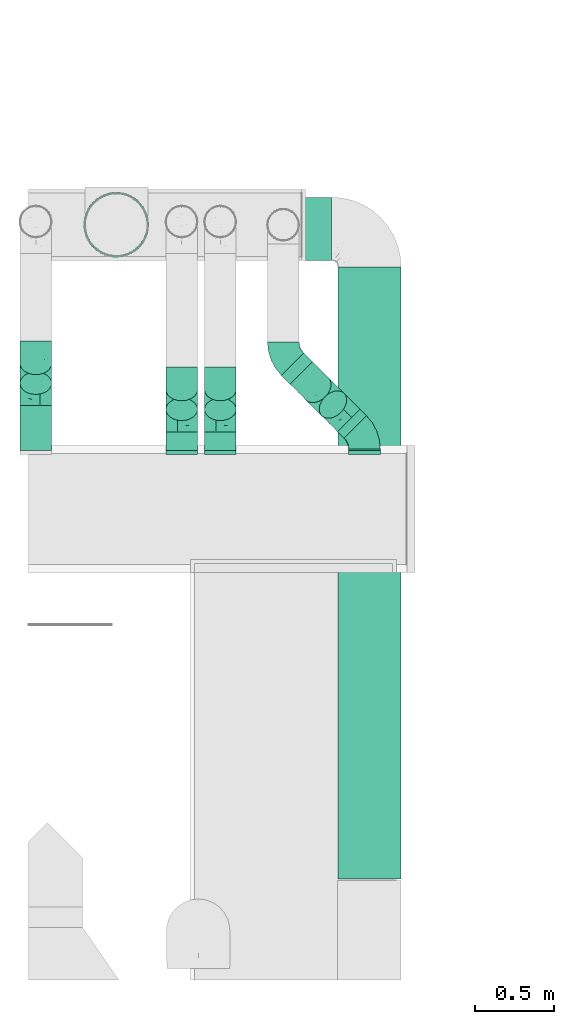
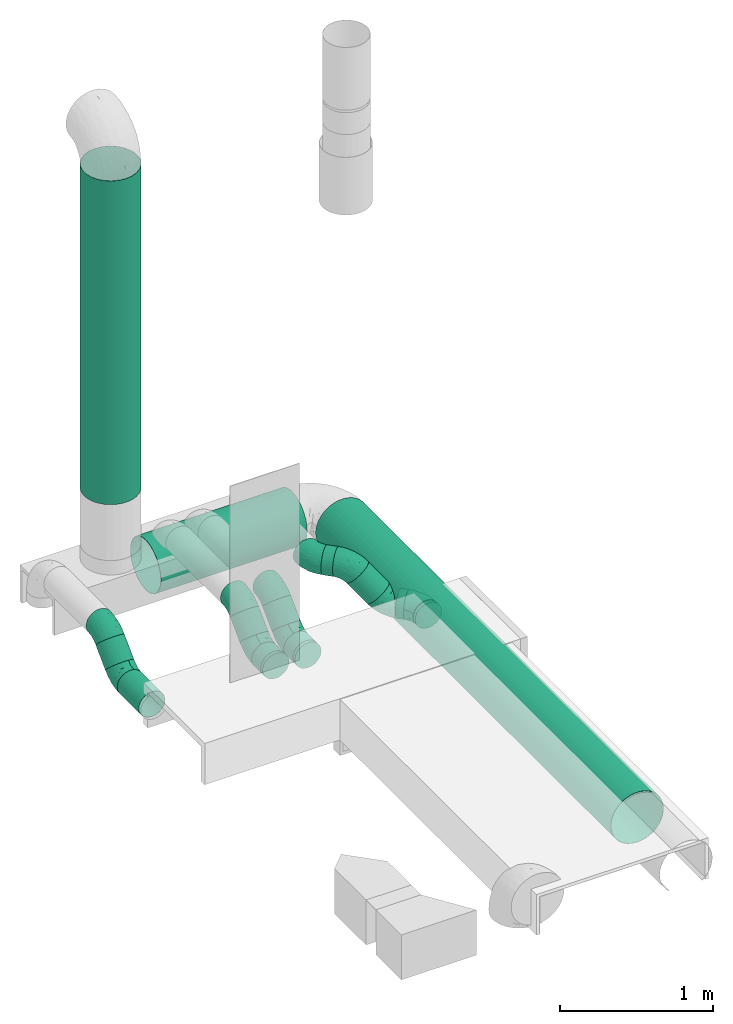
# One storey, part 2 of 9: 13 flow fittings, 13 flow segments.
"""IFC2X3 building model written with IfcOpenShell, lengths in millimetres."""

from ifc_helpers import new_model, entity, si_unit, converted_unit, derived_unit, direction, frame, origin_with_axes, origin_2d_with_axis, place, context, subcontext, project, spatial, hollow_circle, extrude, open_shell, surface_model, source, transform, mapped, type_object, element, save


model = new_model("IFC2X3")

# Units and contexts
model_context = context("Model", 3, precision=0.01, world=frame((0.0, 4.29681676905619e-09, 0.0)), true_north=direction((4.01073788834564e-13, 1.0)))
plan_context = context("Plan", 3, precision=0.01, world=frame((0.0, 4.29681676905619e-09, 0.0)), true_north=direction((4.01073788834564e-13, 1.0)))
body_context = subcontext(model_context, "Body", "Model", "MODEL_VIEW")
ifc_project = project(units=[converted_unit("PLANEANGLEUNIT", "DEGREE", entity("IfcPositiveLengthMeasure", 0.0174532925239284), si_unit("PLANEANGLEUNIT", "RADIAN"), dimensions=[0, 0, 0, 0, 0, 0, 0]), si_unit("AREAUNIT", "SQUARE_METRE"), si_unit("LENGTHUNIT", "METRE", prefix="MILLI"), si_unit("MASSUNIT", "GRAM", prefix="KILO"), si_unit("POWERUNIT", "WATT"), si_unit("PRESSUREUNIT", "PASCAL"), si_unit("FORCEUNIT", "NEWTON", prefix="KILO"), si_unit("ELECTRICVOLTAGEUNIT", "VOLT"), si_unit("ELECTRICCURRENTUNIT", "AMPERE"), si_unit("THERMODYNAMICTEMPERATUREUNIT", "DEGREE_CELSIUS"), si_unit("TIMEUNIT", "SECOND"), si_unit("VOLUMEUNIT", "CUBIC_METRE"), derived_unit("LINEARVELOCITYUNIT", [(si_unit("LENGTHUNIT", "METRE"), 1), (si_unit("TIMEUNIT", "SECOND"), -1)]), derived_unit("VOLUMETRICFLOWRATEUNIT", [(si_unit("VOLUMEUNIT", "CUBIC_METRE"), 1), (si_unit("TIMEUNIT", "SECOND"), -1)]), derived_unit("THERMALTRANSMITTANCEUNIT", [(si_unit("POWERUNIT", "WATT"), 1), (si_unit("THERMODYNAMICTEMPERATUREUNIT", "KELVIN"), -1), (si_unit("AREAUNIT", "SQUARE_METRE"), -1)]), derived_unit("SOUNDPRESSUREUNIT", [(si_unit("PRESSUREUNIT", "PASCAL"), 1)])], contexts=[model_context, plan_context])

# Site, building, storey
site_placement = place(None, frame((0.0, -4.29681676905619e-09, 0.0), z_axis=(0.0, 0.0, 1.0), x_axis=(1.0, 0.0, 0.0)))
site = spatial("IfcSite", under=ifc_project, at=site_placement, Name="ENGM", CompositionType="ELEMENT")
building_placement = place(site_placement, frame((0.0, 4.29681676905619e-09, 0.0), z_axis=(0.0, 0.0, 1.0), x_axis=(1.0, 0.0, 0.0)))
building = spatial("IfcBuilding", under=site, at=building_placement, Name="TH", CompositionType="ELEMENT")
storey_placement = place(building_placement, frame((0.0, 0.0, 205200.0), z_axis=(0.0, 0.0, 1.0), x_axis=(1.0, 0.0, 0.0)))
storey = spatial("IfcBuildingStorey", under=building, at=storey_placement, Name="Nivå D + 1,2 m", CompositionType="ELEMENT", Elevation=205200.0)

# Flow fittings
duct_fitting_type_1 = type_object("IfcDuctFittingType", Name="magicirc_elbow_full_radius_001", PredefinedType="BEND")
shared_shape_1 = source(origin_with_axes(), body_context, "Body", "SurfaceModel", [
    surface_model("IfcShellBasedSurfaceModel", [(-82.84271, 25.8819, -96.59259), (-82.84271, 0.0, -100.0), (-82.84271, 96.59259, -25.8819), (-82.84271, 50.0, -86.60254), (-82.84271, 86.60254, -50.0), (-82.84271, 70.71068, -70.71068), (-82.84271, -70.71068, -70.71068), (-82.84271, -50.0, -86.60254), (-82.84271, -25.8819, -96.59259), (-82.84271, -86.60254, -50.0), (-82.84271, -96.59259, -25.8819), (-82.84271, -50.0, 86.60254), (-82.84271, -100.0, 0.0), (-82.84271, -96.59259, 25.8819), (-82.84271, 96.59259, 25.8819), (-82.84271, 100.0, 0.0), (-82.84271, 25.8819, 96.59259), (-82.84271, 86.60254, 50.0), (-82.84271, 70.71068, 70.71068), (-82.84271, 50.0, 86.60254), (-82.84271, -86.60254, 50.0), (-82.84271, -70.71068, 70.71068), (-82.84271, -25.8819, 96.59259), (-82.84271, 0.0, 100.0), (58.57864, 58.57864, -100.0), (40.27737, 76.87991, -96.59259), (23.22331, 93.93398, -86.60254), (-2.6586, 119.81589, -50.0), (108.57865, 8.57864, -70.71068), (8.57864, 108.57865, -70.71068), (126.87991, -9.72263, 25.8819), (126.87991, -9.72263, -25.8819), (76.87991, 40.27737, -96.59259), (93.93398, 23.22331, -86.60254), (119.81589, -2.6586, -50.0), (129.28932, -12.13203, 0.0), (-9.72263, 126.87991, -25.8819), (-12.13203, 129.28932, 0.0), (-9.72263, 126.87991, 25.8819), (-2.6586, 119.81589, 50.0), (23.22331, 93.93398, 86.60254), (40.27737, 76.87991, 96.59259), (8.57864, 108.57865, 70.71068), (93.93398, 23.22331, 86.60254), (108.57865, 8.57864, 70.71068), (119.81589, -2.6586, 50.0), (76.87991, 40.27737, 96.59259), (58.57864, 58.57864, 100.0), (-57.29099, -79.42021, 59.21052), (-24.31562, -94.23558, 0.0), (-43.9725, -96.06555, 16.63742), (-58.00304, -97.5535, 0.0), (-22.62975, -75.75, 56.8801), (-39.16383, -90.45398, 34.87961), (-29.30132, -36.36549, 90.58787), (-39.70312, -60.08226, 77.13943), (19.49388, -47.06239, 73.85634), (10.84026, 65.00947, 93.41562), (1.46492, -3.53662, 97.91653), (-43.12593, -12.7573, 98.6406), (-38.26827, 14.32746, 99.58947), (-57.69239, 93.63486, 42.10905), (-35.4631, 85.6155, 64.76816), (-29.65962, 102.0198, 46.52765), (-12.25866, 100.52723, 62.54187), (-62.4153, 79.75166, 62.54187), (-46.49193, 62.66416, 81.50801), (-6.40302, -88.25261, 18.80636), (-18.73869, 45.23919, 94.57549), (-53.63386, 38.30341, 93.41562), (91.65364, -36.26761, 34.87961), (-43.25494, 104.42667, 26.03225), (-56.96081, 103.40741, 0.0), (39.51541, 21.47386, 98.6406), (-32.84271, 113.39746, 0.0), (19.7138, -75.88259, 33.1995), (26.23125, -61.80978, 54.83928), (46.43345, -4.99513, 90.58787), (98.51157, -37.21493, 16.69099), (71.15919, -55.23259, 19.42915), (-10.03396, 78.1744, 81.40791), (96.66942, -15.64772, 59.21052), (16.9287, 37.1908, 99.58947), (56.23324, -57.15976, 38.34032), (31.96232, -77.16386, 0.0), (70.55892, -14.41023, 77.13943), (83.82836, -49.44088, 0.0), (106.55884, -30.78646, 0.0), (69.56499, -37.56169, 56.8801), (9.88078, -23.85433, 90.61382), (-11.68618, 28.21294, 99.00678), (57.89534, -63.30237, 0.0), (3.82335, -85.69972, 0.0), (82.71793, -27.62774, -57.98988), (55.71052, 2.24508, -90.99936), (32.01348, 15.60322, -98.50234), (-46.22996, 82.51933, -63.86908), (-42.69185, 39.65342, -93.78543), (-8.72296, 21.05909, -99.80036), (-48.44601, 13.11192, -99.50146), (-43.25495, 104.42667, -26.03225), (-58.37356, 61.05095, -80.80392), (-27.86885, 67.28134, -82.61409), (2.14849, 58.2269, -93.78543), (-36.62535, 98.23487, -47.06584), (-26.19472, -88.59033, -33.84745), (109.99508, -27.9664, 0.0), (-27.06178, -58.48887, -76.46967), (7.51001, -27.94606, -89.20181), (24.24205, -38.81302, -78.67846), (-39.42854, -78.07759, -58.02175), (-40.9808, -37.80578, -90.99936), (-33.67009, -11.60381, -98.50234), (16.54926, -66.14947, -54.09942), (27.48789, -74.57861, -28.28654), (39.90412, -47.07461, -65.1263), (54.0194, -52.73285, -48.57265), (-17.13985, 96.75999, -63.04113), (-7.90978, 86.16249, -77.07496), (24.98497, 43.52803, -99.50146), (81.16529, -44.12035, -33.84745), (57.56574, -24.35182, -76.27755), (-0.71706, 1.73113, -98.92776), (54.51768, -60.62886, -32.38632)], [open_shell([[[0, 1, 2]], [[3, 0, 2]], [[2, 4, 5]], [[3, 2, 5]], [[6, 2, 1]], [[7, 6, 8]], [[6, 1, 8]], [[9, 10, 6]], [[11, 6, 10]], [[10, 12, 13]], [[2, 6, 11]], [[14, 15, 16]], [[17, 14, 18]], [[14, 16, 19]], [[18, 14, 19]], [[11, 16, 15]], [[20, 21, 13]], [[11, 13, 21]], [[10, 13, 11]], [[11, 22, 16]], [[22, 23, 16]], [[15, 2, 11]], [[24, 25, 26]], [[24, 26, 27]], [[24, 27, 28]], [[27, 26, 29]], [[30, 31, 27]], [[32, 28, 33]], [[32, 24, 28]], [[28, 31, 34]], [[27, 31, 28]], [[31, 30, 35]], [[30, 27, 36]], [[37, 38, 39]], [[30, 37, 39]], [[40, 41, 39]], [[40, 39, 42]], [[43, 39, 41]], [[30, 44, 45]], [[44, 30, 43]], [[41, 46, 43]], [[43, 30, 39]], [[47, 46, 41]], [[37, 30, 36]], [[21, 20, 48]], [[49, 50, 51]], [[52, 48, 53]], [[22, 11, 54]], [[11, 55, 54]], [[54, 55, 56]], [[41, 40, 57]], [[58, 59, 54]], [[59, 23, 22]], [[16, 23, 60]], [[17, 61, 14]], [[62, 63, 61]], [[42, 39, 64]], [[62, 65, 66]], [[53, 50, 67]], [[65, 17, 18]], [[68, 69, 60]], [[53, 20, 13]], [[45, 70, 30]], [[14, 71, 72]], [[46, 47, 73]], [[72, 15, 14]], [[74, 71, 38]], [[11, 21, 55]], [[16, 69, 19]], [[52, 75, 76]], [[53, 75, 52]], [[18, 19, 66]], [[77, 46, 73]], [[78, 70, 79]], [[68, 57, 80]], [[77, 43, 46]], [[45, 44, 81]], [[41, 57, 82]], [[75, 83, 76]], [[45, 81, 70]], [[67, 84, 75]], [[77, 85, 43]], [[86, 78, 79]], [[30, 78, 87]], [[83, 70, 88]], [[13, 51, 50]], [[85, 56, 88]], [[72, 71, 74]], [[44, 43, 85]], [[37, 74, 38]], [[54, 89, 58]], [[38, 71, 63]], [[73, 82, 58]], [[42, 80, 40]], [[90, 58, 82]], [[63, 62, 64]], [[60, 90, 68]], [[62, 66, 80]], [[41, 82, 47]], [[59, 60, 23]], [[69, 66, 19]], [[70, 83, 79]], [[48, 55, 21]], [[89, 56, 77]], [[56, 55, 52]], [[56, 85, 77]], [[81, 85, 88]], [[80, 42, 64]], [[68, 80, 66]], [[54, 59, 22]], [[60, 59, 58]], [[82, 73, 47]], [[77, 73, 58]], [[60, 69, 16]], [[66, 69, 68]], [[80, 57, 40]], [[82, 57, 68]], [[76, 88, 56]], [[13, 12, 51]], [[88, 76, 83]], [[52, 76, 56]], [[75, 79, 83]], [[79, 84, 91]], [[87, 35, 30]], [[30, 70, 78]], [[78, 86, 87]], [[84, 79, 75]], [[91, 86, 79]], [[67, 50, 49]], [[13, 50, 53]], [[67, 49, 92]], [[53, 67, 75]], [[38, 63, 39]], [[61, 63, 71]], [[14, 61, 71]], [[61, 17, 65]], [[66, 65, 18]], [[61, 65, 62]], [[63, 64, 39]], [[80, 64, 62]], [[53, 48, 20]], [[55, 48, 52]], [[85, 81, 44]], [[70, 81, 88]], [[56, 89, 54]], [[77, 58, 89]], [[58, 90, 60]], [[82, 68, 90]], [[84, 67, 92]], [[34, 93, 28]], [[32, 94, 95]], [[96, 5, 4]], [[3, 97, 0]], [[15, 72, 2]], [[98, 99, 97]], [[2, 72, 100]], [[24, 32, 95]], [[101, 96, 102]], [[26, 25, 103]], [[2, 100, 104]], [[99, 1, 0]], [[9, 105, 10]], [[32, 33, 94]], [[105, 51, 10]], [[102, 103, 97]], [[31, 35, 106]], [[4, 2, 104]], [[6, 7, 107]], [[107, 108, 109]], [[6, 110, 9]], [[8, 111, 7]], [[8, 1, 112]], [[105, 113, 114]], [[115, 93, 116]], [[29, 117, 27]], [[100, 72, 74]], [[113, 110, 107]], [[74, 37, 36]], [[111, 108, 107]], [[117, 104, 27]], [[104, 36, 27]], [[102, 96, 118]], [[117, 118, 96]], [[3, 5, 101]], [[112, 111, 8]], [[119, 25, 24]], [[101, 97, 3]], [[1, 99, 112]], [[102, 118, 103]], [[93, 34, 120]], [[119, 95, 98]], [[95, 94, 108]], [[110, 6, 107]], [[115, 109, 121]], [[113, 116, 114]], [[92, 105, 114]], [[121, 33, 28]], [[120, 31, 106]], [[110, 113, 105]], [[120, 106, 86]], [[119, 103, 25]], [[95, 122, 98]], [[31, 120, 34]], [[91, 114, 123]], [[122, 108, 112]], [[116, 93, 120]], [[100, 74, 36]], [[121, 28, 93]], [[98, 97, 103]], [[105, 9, 110]], [[33, 121, 94]], [[94, 121, 109]], [[108, 111, 112]], [[107, 7, 111]], [[97, 99, 0]], [[112, 99, 98]], [[95, 119, 24]], [[103, 119, 98]], [[117, 29, 118]], [[104, 117, 96]], [[4, 104, 96]], [[104, 100, 36]], [[29, 26, 118]], [[103, 118, 26]], [[84, 114, 91]], [[115, 116, 113]], [[96, 101, 5]], [[49, 105, 92]], [[109, 113, 107]], [[93, 115, 121]], [[109, 115, 113]], [[94, 109, 108]], [[120, 123, 116]], [[86, 91, 120]], [[97, 101, 102]], [[51, 105, 49]], [[51, 12, 10]], [[108, 122, 95]], [[112, 98, 122]], [[114, 84, 92]], [[91, 123, 120]], [[114, 116, 123]]])]),
])
for number, where, z_axis, x_axis, name in (
    (1, (895158.11568, 479740.09136, 4160.0), (1.0, 0.0, 0.0), (0.0, 1.0, 0.0), "magicirc_elbow_full_radius_001"),
    (2, (895158.11568, 479982.20154, 4402.11017999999), (-1.0, 0.0, 0.0), (0.0, 0.707106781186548, 0.707106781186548), "magicirc_elbow_full_radius_001"),
    (3, (896078.11568, 479817.20154, 4402.11017999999), (-1.0, 0.0, 0.0), (0.0, 0.707106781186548, 0.707106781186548), "magicirc_elbow_full_radius_001"),
    (4, (896321.62292, 479817.20154, 4402.11017999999), (-1.0, 0.0, 0.0), (0.0, 0.707106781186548, 0.707106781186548), "magicirc_elbow_full_radius_001"),
    (5, (897230.84596, 479465.09136, 4160.0), (0.0, 0.0, 1.0), (0.0, 1.0, 0.0), "magicirc_elbow_full_radius_001"),
    (6, (896078.11568, 479575.09136, 4160.0), (-1.0, 0.0, 0.0), (0.0, -0.707106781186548, -0.707106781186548), "magicirc_elbow_full_radius_001"),
    (7, (896321.62292, 479575.09136, 4160.0), (-1.0, 0.0, 0.0), (0.0, -0.707106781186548, -0.707106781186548), "magicirc_elbow_full_radius_001"),
    (8, (896718.71393, 479977.22339, 4416.87078), (0.0, 0.0, 1.0), (0.0, -1.0, 0.0), "magicirc_elbow_full_radius_001"),
    (9, (896891.6373, 479804.30002, 4416.87078), (0.707106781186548, 0.707106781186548, 0.0), (0.707106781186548, -0.707106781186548, 0.0), "magicirc_elbow_full_radius_001"),
    (10, (897073.27237, 479622.66495, 4160.0), (0.707106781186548, 0.707106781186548, 0.0), (-0.707106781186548, 0.707106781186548, 0.0), "magicirc_elbow_full_radius_001"),
):
    element("IfcFlowFitting", number, at=place(storey_placement, frame(where, z_axis=z_axis, x_axis=x_axis)), inside=storey, type_object=duct_fitting_type_1, Name=name, context=body_context, shape_type="MappedRepresentation", body=[
        mapped(shared_shape_1, transform((0.0, 0.0, 0.0), scale=1.0)),
    ])
duct_fitting_type_2 = type_object("IfcDuctFittingType", Name="magicirc_tapoutlet_001", PredefinedType="CONNECTOR")
shared_shape_2 = source(origin_with_axes(), body_context, "Body", "SurfaceModel", [
    surface_model("IfcShellBasedSurfaceModel", [(20.0, -96.59259, -25.8819), (20.0, -100.0, 0.0), (0.0, -100.0, 0.0), (0.0, -96.59259, -25.8819), (-6.096, 100.0, 0.0), (-6.096, 96.59259, -25.8819), (-6.096, 96.59259, 25.8819), (20.0, -86.60254, -50.0), (20.0, -96.59259, 25.8819), (-6.096, -25.8819, -96.59259), (-6.096, -100.0, 0.0), (-6.096, 0.0, -100.0), (-6.096, -50.0, -86.60254), (-6.096, -70.71068, -70.71068), (-6.096, -86.60254, -50.0), (-6.096, 70.71068, -70.71068), (-6.096, 50.0, -86.60254), (-6.096, 25.8819, -96.59259), (-6.096, 86.60254, -50.0), (-6.096, -96.59259, -25.8819), (-6.096, -96.59259, 25.8819), (-6.096, -86.60254, 50.0), (-6.096, -70.71068, 70.71068), (-6.096, -25.8819, 96.59259), (-6.096, -50.0, 86.60254), (-6.096, 25.8819, 96.59259), (-6.096, 70.71068, 70.71068), (-6.096, 86.60254, 50.0), (-6.096, 50.0, 86.60254), (-6.096, 0.0, 100.0), (0.0, -25.8819, 96.59259), (0.0, 0.0, 100.0), (0.0, -50.0, 86.60254), (0.0, -70.71068, 70.71068), (0.0, -96.59259, 25.8819), (0.0, -86.60254, 50.0), (0.0, -86.60254, -50.0), (0.0, -70.71068, -70.71068), (0.0, 0.0, -100.0), (0.0, -25.8819, -96.59259), (0.0, -50.0, -86.60254), (0.0, 25.8819, -96.59259), (0.0, 50.0, -86.60254), (0.0, 70.71068, -70.71068), (0.0, 96.59259, -25.8819), (0.0, 86.60254, -50.0), (0.0, 100.0, 0.0), (0.0, 96.59259, 25.8819), (0.0, 86.60254, 50.0), (0.0, 70.71068, 70.71068), (0.0, 25.8819, 96.59259), (0.0, 50.0, 86.60254), (20.0, 0.0, -100.0), (20.0, 25.8819, -96.59259), (20.0, -25.8819, -96.59259), (20.0, -50.0, -86.60254), (20.0, -70.71068, -70.71068), (20.0, 100.0, 0.0), (20.0, 96.59259, 25.8819), (20.0, 70.71068, -70.71068), (20.0, 50.0, -86.60254), (20.0, 96.59259, -25.8819), (20.0, 86.60254, -50.0), (20.0, -86.60254, 50.0), (20.0, -70.71068, 70.71068), (20.0, -50.0, 86.60254), (20.0, -25.8819, 96.59259), (20.0, 0.0, 100.0), (20.0, 86.60254, 50.0), (20.0, 70.71068, 70.71068), (20.0, 25.8819, 96.59259), (20.0, 50.0, 86.60254)], [open_shell([[[0, 1, 2]], [[3, 0, 2]], [[4, 5, 6]], [[7, 8, 0]], [[1, 0, 8]], [[9, 10, 11]], [[12, 10, 9]], [[10, 13, 14]], [[10, 12, 13]], [[15, 11, 6]], [[11, 16, 17]], [[11, 15, 16]], [[18, 6, 5]], [[6, 18, 15]], [[10, 14, 19]], [[20, 21, 11]], [[21, 22, 11]], [[23, 11, 24]], [[11, 22, 24]], [[11, 23, 25]], [[11, 26, 27]], [[6, 11, 27]], [[11, 28, 26]], [[25, 28, 11]], [[23, 29, 25]], [[20, 11, 10]], [[30, 31, 29]], [[32, 30, 23]], [[23, 30, 29]], [[22, 33, 24]], [[32, 23, 24]], [[32, 24, 33]], [[34, 35, 21]], [[2, 34, 20]], [[21, 35, 22]], [[34, 21, 20]], [[2, 20, 10]], [[33, 22, 35]], [[3, 2, 10]], [[36, 3, 19]], [[19, 3, 10]], [[13, 37, 14]], [[36, 19, 14]], [[36, 14, 37]], [[9, 38, 39]], [[12, 39, 40]], [[12, 40, 13]], [[38, 9, 11]], [[12, 9, 39]], [[37, 13, 40]], [[41, 38, 11]], [[42, 41, 17]], [[17, 41, 11]], [[15, 43, 16]], [[42, 17, 16]], [[42, 16, 43]], [[44, 45, 18]], [[46, 44, 5]], [[18, 45, 15]], [[44, 18, 5]], [[46, 5, 4]], [[43, 15, 45]], [[47, 46, 4]], [[48, 47, 6]], [[6, 47, 4]], [[26, 49, 27]], [[48, 6, 27]], [[48, 27, 49]], [[50, 51, 28]], [[31, 50, 25]], [[28, 51, 26]], [[50, 28, 25]], [[31, 25, 29]], [[49, 26, 51]], [[52, 53, 54]], [[54, 8, 55]], [[7, 56, 8]], [[8, 56, 55]], [[54, 57, 58]], [[59, 57, 60]], [[54, 53, 60]], [[61, 57, 62]], [[59, 62, 57]], [[60, 57, 54]], [[0, 7, 8]], [[63, 8, 54]], [[54, 64, 63]], [[65, 54, 66]], [[65, 64, 54]], [[67, 66, 54]], [[68, 69, 54]], [[54, 58, 68]], [[70, 67, 71]], [[54, 69, 71]], [[71, 67, 54]], [[66, 67, 31]], [[65, 66, 30]], [[30, 66, 31]], [[33, 64, 32]], [[65, 30, 32]], [[65, 32, 64]], [[8, 63, 35]], [[1, 8, 34]], [[35, 63, 33]], [[8, 35, 34]], [[1, 34, 2]], [[64, 33, 63]], [[7, 0, 3]], [[37, 56, 36]], [[7, 3, 36]], [[7, 36, 56]], [[39, 52, 54]], [[40, 54, 55]], [[40, 55, 37]], [[52, 39, 38]], [[40, 39, 54]], [[56, 37, 55]], [[53, 52, 38]], [[60, 53, 41]], [[41, 53, 38]], [[43, 59, 42]], [[60, 41, 42]], [[60, 42, 59]], [[61, 62, 45]], [[57, 61, 44]], [[45, 62, 43]], [[61, 45, 44]], [[57, 44, 46]], [[59, 43, 62]], [[58, 57, 46]], [[68, 58, 47]], [[47, 58, 46]], [[49, 69, 48]], [[68, 47, 48]], [[68, 48, 69]], [[70, 71, 51]], [[67, 70, 50]], [[51, 71, 49]], [[70, 51, 50]], [[67, 50, 31]], [[69, 49, 71]], [[56, 55, 8]]])]),
])
for number, where, z_axis, x_axis, name in (
    (11, (897230.84596, 479355.09136, 4160.0), (0.0, 0.0, -1.0), (0.0, 1.0, 0.0), "magicirc_tapoutlet_001"),
    (12, (896078.11568, 479355.09136, 4160.0), (0.0, 0.0, -1.0), (0.0, 1.0, 0.0), "magicirc_tapoutlet_001"),
    (13, (896321.62292, 479355.09136, 4160.0), (0.0, 0.0, -1.0), (0.0, 1.0, 0.0), "magicirc_tapoutlet_001"),
):
    element("IfcFlowFitting", number, at=place(storey_placement, frame(where, z_axis=z_axis, x_axis=x_axis)), inside=storey, type_object=duct_fitting_type_2, Name=name, context=body_context, shape_type="MappedRepresentation", body=[
        mapped(shared_shape_2, transform((0.0, 0.0, 0.0), scale=1.0)),
    ])

# Flow segments
duct_segment_type_1 = type_object("IfcDuctSegmentType", Name="2 - Spiro kanaler, Forsinket stål", PredefinedType="RIGIDSEGMENT")
shared_shape_3 = source(origin_with_axes(), body_context, "Body", "SweptSolid", [
    extrude(hollow_circle(Radius=200.0, WallThickness=2.0, at=origin_2d_with_axis()), frame((0.0, 0.0, 0.0), z_axis=(1.0, 0.0, 0.0), x_axis=(0.0, 1.0, 0.0)), (0.0, 0.0, 1.0), 2585.1),
])
flow_segment_1_placement = place(storey_placement, frame((895666.49216, 480797.12038, 7437.84318), z_axis=(-0.707106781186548, 0.707106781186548, 0.0), x_axis=(0.0, 0.0, -1.0)))
element("IfcFlowSegment", 14, at=flow_segment_1_placement, inside=storey, type_object=duct_segment_type_1, Name="2 - Spiro kanaler, Forsinket stål", context=body_context, shape_type="MappedRepresentation", body=[
    mapped(shared_shape_3, transform((0.0, 0.0, 0.0), scale=1.0)),
])
shared_shape_4 = source(origin_with_axes(), body_context, "Body", "SweptSolid", [
    extrude(hollow_circle(Radius=200.0, WallThickness=2.0, at=origin_2d_with_axis()), frame((0.0, 0.0, 0.0), z_axis=(1.0, 0.0, 0.0), x_axis=(0.0, 1.0, 0.0)), (0.0, 0.0, 1.0), 1105.4),
])
flow_segment_2_placement = place(storey_placement, frame((897021.87521, 480772.12038, 4160.0), z_axis=(0.0, 0.0, 1.0), x_axis=(-1.0, 0.0, 0.0)))
element("IfcFlowSegment", 15, at=flow_segment_2_placement, inside=storey, type_object=duct_segment_type_1, Name="2 - Spiro kanaler, Forsinket stål", context=body_context, shape_type="MappedRepresentation", body=[
    mapped(shared_shape_4, transform((0.0, 0.0, 0.0), scale=1.0)),
])
shared_shape_5 = source(origin_with_axes(), body_context, "Body", "SweptSolid", [
    extrude(hollow_circle(Radius=200.0, WallThickness=2.0, at=origin_2d_with_axis()), frame((0.0, 0.0, 0.0), z_axis=(1.0, 0.0, 0.0), x_axis=(0.0, 1.0, 0.0)), (0.0, 0.0, 1.0), 3860.0),
])
flow_segment_3_placement = place(storey_placement, frame((897261.87521, 480532.12038, 4160.0), z_axis=(0.0, 0.0, 1.0), x_axis=(0.0, -1.0, 0.0)))
element("IfcFlowSegment", 16, at=flow_segment_3_placement, inside=storey, type_object=duct_segment_type_1, Name="2 - Spiro kanaler, Forsinket stål", context=body_context, shape_type="MappedRepresentation", body=[
    mapped(shared_shape_5, transform((0.0, 0.0, 0.0), scale=1.0)),
])
duct_segment_type_2 = type_object("IfcDuctSegmentType", Name="4 - Spiro kanaler, korte bend", PredefinedType="RIGIDSEGMENT")
shared_shape_6 = source(origin_with_axes(), body_context, "Body", "SweptSolid", [
    extrude(hollow_circle(Radius=100.0, WallThickness=2.0, at=origin_2d_with_axis()), frame((0.0, 0.0, 0.0), z_axis=(1.0, 0.0, 0.0), x_axis=(0.0, 1.0, 0.0)), (0.0, 0.0, 1.0), 282.2),
])
flow_segment_4_placement = place(storey_placement, frame((895158.11568, 479375.09136, 4160.0), z_axis=(0.0, 0.0, 1.0), x_axis=(0.0, 1.0, 0.0)))
element("IfcFlowSegment", 17, at=flow_segment_4_placement, inside=storey, type_object=duct_segment_type_2, Name="4 - Spiro kanaler, korte bend", context=body_context, shape_type="MappedRepresentation", body=[
    mapped(shared_shape_6, transform((0.0, 0.0, 0.0), scale=1.0)),
])
shared_shape_7 = source(origin_with_axes(), body_context, "Body", "SweptSolid", [
    extrude(hollow_circle(Radius=100.0, WallThickness=2.0, at=origin_2d_with_axis()), frame((0.0, 0.0, 0.0), z_axis=(1.0, 0.0, 0.0), x_axis=(0.0, 1.0, 0.0)), (0.0, 0.0, 1.0), 176.7),
])
for number, where, z_axis, x_axis, name in (
    (18, (895158.11568, 479798.67, 4218.57863999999), (0.0, -0.707106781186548, 0.707106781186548), (0.0, 0.707106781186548, 0.707106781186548), "4 - Spiro kanaler, korte bend"),
    (19, (896078.11568, 479633.67, 4218.57863999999), (0.0, -0.707106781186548, 0.707106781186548), (0.0, 0.707106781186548, 0.707106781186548), "4 - Spiro kanaler, korte bend"),
    (20, (896321.62292, 479633.67, 4218.57863999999), (0.0, -0.707106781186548, 0.707106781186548), (0.0, 0.707106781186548, 0.707106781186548), "4 - Spiro kanaler, korte bend"),
):
    element("IfcFlowSegment", number, at=place(storey_placement, frame(where, z_axis=z_axis, x_axis=x_axis)), inside=storey, type_object=duct_segment_type_2, Name=name, context=body_context, shape_type="MappedRepresentation", body=[
        mapped(shared_shape_7, transform((0.0, 0.0, 0.0), scale=1.0)),
    ])
shared_shape_8 = source(origin_with_axes(), body_context, "Body", "SweptSolid", [
    extrude(hollow_circle(Radius=100.0, WallThickness=2.0, at=origin_2d_with_axis()), frame((0.0, 0.0, 0.0), z_axis=(1.0, 0.0, 0.0), x_axis=(0.0, 1.0, 0.0)), (0.0, 0.0, 1.0), 7.2),
])
flow_segment_5_placement = place(storey_placement, frame((897230.84596, 479375.09136, 4160.0), z_axis=(0.0, 0.0, 1.0), x_axis=(0.0, 1.0, 0.0)))
element("IfcFlowSegment", 21, at=flow_segment_5_placement, inside=storey, type_object=duct_segment_type_2, Name="4 - Spiro kanaler, korte bend", context=body_context, shape_type="MappedRepresentation", body=[
    mapped(shared_shape_8, transform((0.0, 0.0, 0.0), scale=1.0)),
])
shared_shape_9 = source(origin_with_axes(), body_context, "Body", "SweptSolid", [
    extrude(hollow_circle(Radius=100.0, WallThickness=2.0, at=origin_2d_with_axis()), frame((0.0, 0.0, 0.0), z_axis=(1.0, 0.0, 0.0), x_axis=(0.0, 1.0, 0.0)), (0.0, 0.0, 1.0), 117.2),
])
for number, where, z_axis, x_axis, name in (
    (22, (896078.11568, 479492.24865, 4160.0), (0.0, 0.0, 1.0), (0.0, -1.0, 0.0), "4 - Spiro kanaler, korte bend"),
    (23, (896321.62292, 479492.24865, 4160.0), (0.0, 0.0, 1.0), (0.0, -1.0, 0.0), "4 - Spiro kanaler, korte bend"),
):
    element("IfcFlowSegment", number, at=place(storey_placement, frame(where, z_axis=z_axis, x_axis=x_axis)), inside=storey, type_object=duct_segment_type_2, Name=name, context=body_context, shape_type="MappedRepresentation", body=[
        mapped(shared_shape_9, transform((0.0, 0.0, 0.0), scale=1.0)),
    ])
shared_shape_10 = source(origin_with_axes(), body_context, "Body", "SweptSolid", [
    extrude(hollow_circle(Radius=100.0, WallThickness=2.0, at=origin_2d_with_axis()), frame((0.0, 0.0, 0.0), z_axis=(1.0, 0.0, 0.0), x_axis=(0.0, 1.0, 0.0)), (0.0, 0.0, 1.0), 78.9),
])
flow_segment_6_placement = place(storey_placement, frame((896833.05865, 479862.87867, 4416.87078), z_axis=(0.0, 0.0, 1.0), x_axis=(-0.707106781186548, 0.707106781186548, 0.0)))
element("IfcFlowSegment", 24, at=flow_segment_6_placement, inside=storey, type_object=duct_segment_type_2, Name="4 - Spiro kanaler, korte bend", context=body_context, shape_type="MappedRepresentation", body=[
    mapped(shared_shape_10, transform((0.0, 0.0, 0.0), scale=1.0)),
])
shared_shape_11 = source(origin_with_axes(), body_context, "Body", "SweptSolid", [
    extrude(hollow_circle(Radius=100.0, WallThickness=2.0, at=origin_2d_with_axis()), frame((0.0, 0.0, 0.0), z_axis=(1.0, 0.0, 0.0), x_axis=(0.0, 1.0, 0.0)), (0.0, 0.0, 1.0), 57.2),
])
flow_segment_7_placement = place(storey_placement, frame((897172.26732, 479523.67, 4160.0), z_axis=(0.0, 0.0, 1.0), x_axis=(-0.707106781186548, 0.707106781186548, 0.0)))
element("IfcFlowSegment", 25, at=flow_segment_7_placement, inside=storey, type_object=duct_segment_type_2, Name="4 - Spiro kanaler, korte bend", context=body_context, shape_type="MappedRepresentation", body=[
    mapped(shared_shape_11, transform((0.0, 0.0, 0.0), scale=1.0)),
])
shared_shape_12 = source(origin_with_axes(), body_context, "Body", "SweptSolid", [
    extrude(hollow_circle(Radius=100.0, WallThickness=2.0, at=origin_2d_with_axis()), frame((0.0, 0.0, 0.0), z_axis=(1.0, 0.0, 0.0), x_axis=(0.0, 1.0, 0.0)), (0.0, 0.0, 1.0), 197.6),
])
flow_segment_8_placement = place(storey_placement, frame((896933.05865, 479762.87867, 4358.29214000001), z_axis=(0.499999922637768, -0.499999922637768, 0.707106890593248), x_axis=(0.50000007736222, -0.50000007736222, -0.70710667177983)))
element("IfcFlowSegment", 26, at=flow_segment_8_placement, inside=storey, type_object=duct_segment_type_2, Name="4 - Spiro kanaler, korte bend", context=body_context, shape_type="MappedRepresentation", body=[
    mapped(shared_shape_12, transform((0.0, 0.0, 0.0), scale=1.0)),
])

save(model, "model.ifc")
